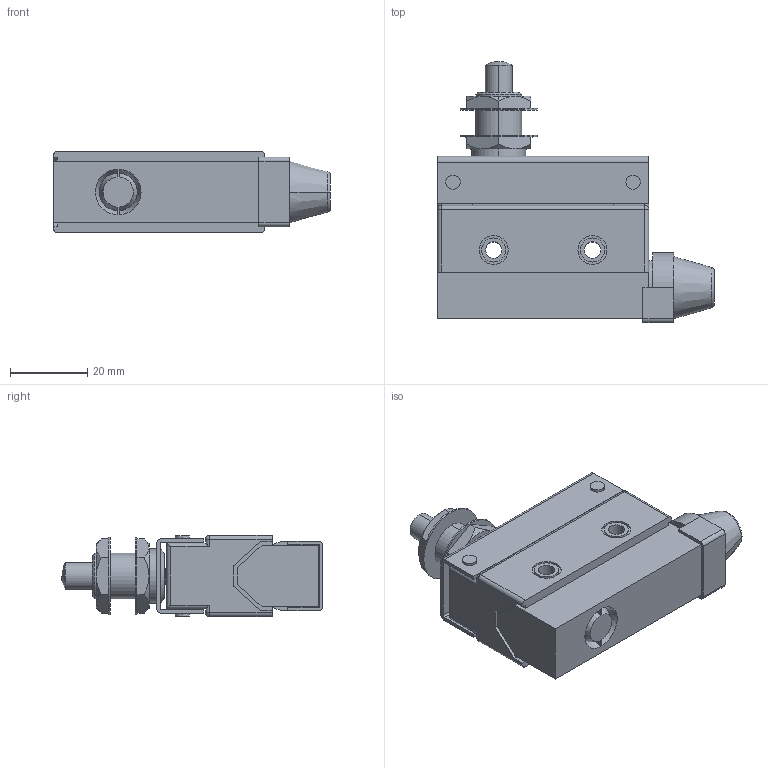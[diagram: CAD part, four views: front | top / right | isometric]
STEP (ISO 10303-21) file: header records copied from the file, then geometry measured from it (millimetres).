
FILE_DESCRIPTION (( 'STEP AP203' ), '1' );
FILE_NAME ('FM7310.STEP', '2018-03-23T13:20:06', ( '' ), ( '' ), 'SwSTEP 2.0', 'SolidWorks 2012', '' );
FILE_SCHEMA (( 'CONFIG_CONTROL_DESIGN' ));
Length unit declared in the file: millimetre
Products named in the file (1): FM7310
Bounding box: 71.5 x 67.4 x 21 mm (x, y, z)
Volume: 45700.7 mm3; surface area: 17337.2 mm2
Topology: 1 solids, 2 shells, 293 faces, 702 edges, 435 vertices
Faces by surface type: plane 121, cylinder 109, cone 28, torus 22, sphere 10, bspline 3
Entity records: 11331 total; most frequent: CARTESIAN_POINT 4375, DIRECTION 1494, ORIENTED_EDGE 1380, EDGE_CURVE 690, AXIS2_PLACEMENT_3D 573, VERTEX_POINT 435, LINE 348, VECTOR 348
